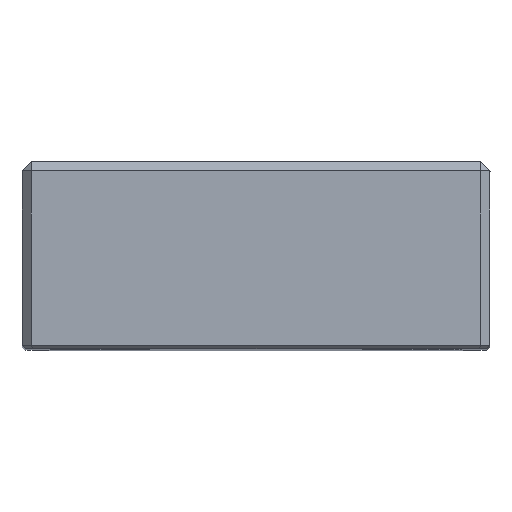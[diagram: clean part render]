
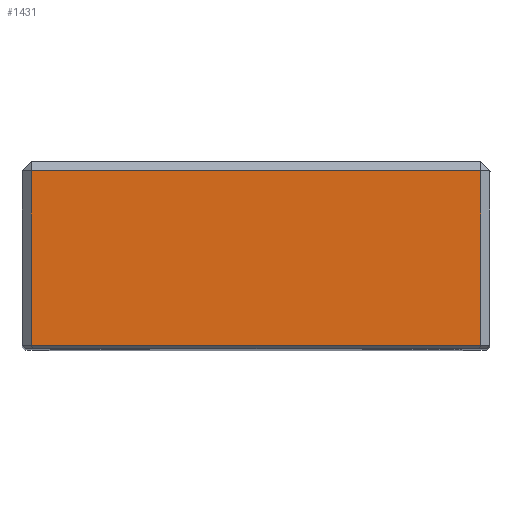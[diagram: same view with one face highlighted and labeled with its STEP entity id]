
A CAD part, top view. The second image highlights one B-rep face of the part: STEP entity #1431.
In plain terms, the highlighted planar face has unit normal (0, 0, 1).
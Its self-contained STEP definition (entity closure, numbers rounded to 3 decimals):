
#1404=AXIS2_PLACEMENT_3D('Plane Axis2P3D',#1401,#1402,#1403) ;
#605=CARTESIAN_POINT('Vertex',(-72.,-3.,0.)) ;
#608=CARTESIAN_POINT('Line Origine',(0.,-3.,0.)) ;
#612=CARTESIAN_POINT('Vertex',(72.,-3.,0.)) ;
#1401=CARTESIAN_POINT('Axis2P3D Location',(75.,0.,0.)) ;
#1406=CARTESIAN_POINT('Line Origine',(0.,-59.,0.)) ;
#1410=CARTESIAN_POINT('Vertex',(72.,-59.,0.)) ;
#1412=CARTESIAN_POINT('Vertex',(-72.,-59.,0.)) ;
#1415=CARTESIAN_POINT('Line Origine',(72.,-31.,0.)) ;
#1420=CARTESIAN_POINT('Line Origine',(-72.,-31.,0.)) ;
#609=DIRECTION('Vector Direction',(1.,0.,0.)) ;
#1402=DIRECTION('Axis2P3D Direction',(0.,0.,1.)) ;
#1403=DIRECTION('Axis2P3D XDirection',(-1.,0.,0.)) ;
#1407=DIRECTION('Vector Direction',(-1.,0.,0.)) ;
#1416=DIRECTION('Vector Direction',(0.,-1.,0.)) ;
#1421=DIRECTION('Vector Direction',(0.,1.,0.)) ;
#610=VECTOR('Line Direction',#609,1.) ;
#1408=VECTOR('Line Direction',#1407,1.) ;
#1417=VECTOR('Line Direction',#1416,1.) ;
#1422=VECTOR('Line Direction',#1421,1.) ;
#1426=ORIENTED_EDGE('',*,*,#1414,.F.) ;
#1427=ORIENTED_EDGE('',*,*,#1419,.F.) ;
#1428=ORIENTED_EDGE('',*,*,#614,.F.) ;
#1429=ORIENTED_EDGE('',*,*,#1424,.F.) ;
#1431=ADVANCED_FACE('MANIFOLD_SOLID_BREP #3309',(#1430),#1405,.T.) ;
#614=EDGE_CURVE('',#606,#613,#611,.T.) ;
#1414=EDGE_CURVE('',#1411,#1413,#1409,.T.) ;
#1419=EDGE_CURVE('',#613,#1411,#1418,.T.) ;
#1424=EDGE_CURVE('',#1413,#606,#1423,.T.) ;
#1425=EDGE_LOOP('',(#1426,#1427,#1428,#1429)) ;
#1430=FACE_OUTER_BOUND('',#1425,.T.) ;
#611=LINE('Line',#608,#610) ;
#1409=LINE('Line',#1406,#1408) ;
#1418=LINE('Line',#1415,#1417) ;
#1423=LINE('Line',#1420,#1422) ;
#1405=PLANE('Plane',#1404) ;
#606=VERTEX_POINT('',#605) ;
#613=VERTEX_POINT('',#612) ;
#1411=VERTEX_POINT('',#1410) ;
#1413=VERTEX_POINT('',#1412) ;
